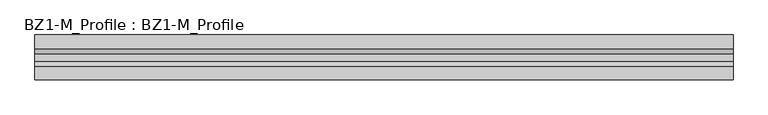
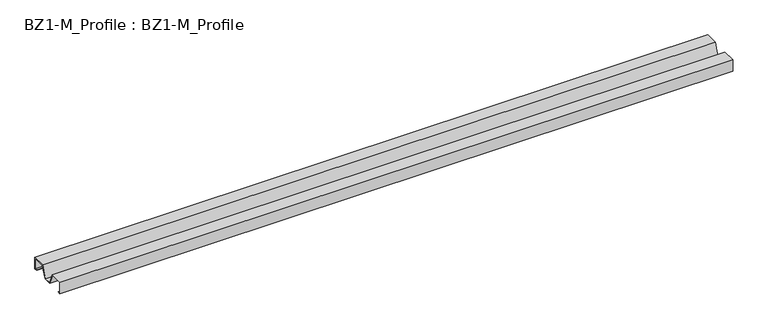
"""IFC4 building model written with IfcOpenShell, lengths in millimetres: beam geometry, BZ1-M_Profile : BZ1-M_Profile."""

import ifcopenshell
import ifcopenshell.guid

model = None  # the IFC model being written
_history = None  # IfcOwnerHistory: only IFC2X3 demands one
_inside = {}  # id of a spatial element -> (the spatial element, [elements in it])
_under = {}  # id of a project, library or spatial element -> (it, [spatial elements below it])
_declared = {}  # id of a project -> (the project, [libraries it declares])
_typed = {}  # id of a type object -> (the type object, [elements of that type])
_made_of = {}  # id of a material, layer set ... -> (it, [elements and type objects made of it])


def new_model(schema):
    """Start an empty IFC model of exactly this schema.

    Asked for "IFC4X3", IfcOpenShell would pick the latest addendum, in which some entities
    have other attributes; the version numbers below select the first issue.
    IFC2X3 requires an IfcOwnerHistory on every rooted entity: one is made here for all.
    """
    global model, _history
    if schema == "IFC4X3":
        model = ifcopenshell.file(schema_version=(4, 3, 0, 0))
    else:
        model = ifcopenshell.file(schema=schema)
    _inside.clear()
    _under.clear()
    _declared.clear()
    _typed.clear()
    _made_of.clear()
    _history = None
    if model.schema == "IFC2X3":
        org = make("IfcOrganization", Name="unknown")
        user = make(
            "IfcPersonAndOrganization",
            ThePerson=make("IfcPerson", FamilyName="unknown"),
            TheOrganization=org,
        )
        app = make(
            "IfcApplication",
            ApplicationDeveloper=org,
            Version="unknown",
            ApplicationFullName="unknown",
            ApplicationIdentifier="unknown",
        )
        _history = make(
            "IfcOwnerHistory",
            OwningUser=user,
            OwningApplication=app,
            ChangeAction="ADDED",
            CreationDate=0,
        )
    return model


def make(cls, **values):
    """One entity of the class cls with the attributes given. An attribute that is None is left unset."""
    return model.create_entity(
        cls, **{name: value for name, value in values.items() if value is not None}
    )


def rooted(cls, **values):
    """An entity with a GlobalId (a new one), such as an element, a storey or a relation."""
    return make(cls, GlobalId=ifcopenshell.guid.new(), OwnerHistory=_history, **values)


def si_unit(unit_type, name, prefix=None):
    """IfcSIUnit, for example si_unit("LENGTHUNIT", "METRE", prefix="MILLI")."""
    return make("IfcSIUnit", UnitType=unit_type, Prefix=prefix, Name=name)


def assignment(units):
    """IfcUnitAssignment: the units of a project."""
    return None if units is None else make("IfcUnitAssignment", Units=units)


def point(xyz):
    """IfcCartesianPoint."""
    return None if xyz is None else make("IfcCartesianPoint", Coordinates=xyz)


def direction(xyz):
    """IfcDirection."""
    return None if xyz is None else make("IfcDirection", DirectionRatios=xyz)


def frame(location, z_axis=None, x_axis=None):
    """IfcAxis2Placement3D, a coordinate frame: its origin and axes. An axis left out is left unset."""
    return make(
        "IfcAxis2Placement3D",
        Location=point(location),
        Axis=direction(z_axis),
        RefDirection=direction(x_axis),
    )


def origin():
    """The frame at (0, 0, 0) with its axes left unset."""
    return frame((0.0, 0.0, 0.0))


def place(relative_to, where):
    """IfcLocalPlacement: puts the frame where relative to a parent placement (None: the world)."""
    return make(
        "IfcLocalPlacement", PlacementRelTo=relative_to, RelativePlacement=where
    )


def context(
    kind, dimensions, precision=None, world=None, true_north=None, identifier=None
):
    """IfcGeometricRepresentationContext, for example the 3D "Model" context."""
    return make(
        "IfcGeometricRepresentationContext",
        ContextIdentifier=identifier,
        ContextType=kind,
        CoordinateSpaceDimension=dimensions,
        Precision=precision,
        WorldCoordinateSystem=world,
        TrueNorth=true_north,
    )


def project(units=None, contexts=None):
    """IfcProject with its units and contexts."""
    return rooted(
        "IfcProject",
        Name="project",
        RepresentationContexts=contexts,
        UnitsInContext=assignment(units),
    )


def spatial(cls, under=None, at=None, **own):
    """A site, building, storey or space (cls), placed at a placement, below another one or the project."""
    s = rooted(cls, ObjectPlacement=at, **own)
    if under is not None:
        _under.setdefault(under.id(), (under, []))[1].append(s)
    return s


def polyline(points):
    """IfcPolyline through the points."""
    return make("IfcPolyline", Points=[point(p) for p in points])


def outline(outer, holes=None, kind="AREA"):
    """IfcArbitraryClosedProfileDef: a profile drawn as a closed curve; with holes, ...WithVoids."""
    if holes is None:
        return make("IfcArbitraryClosedProfileDef", ProfileType=kind, OuterCurve=outer)
    return make(
        "IfcArbitraryProfileDefWithVoids",
        ProfileType=kind,
        OuterCurve=outer,
        InnerCurves=holes,
    )


def extrude(swept, where, along, depth):
    """IfcExtrudedAreaSolid: the profile swept, set in the frame where, extruded along a direction by depth."""
    return make(
        "IfcExtrudedAreaSolid",
        SweptArea=swept,
        Position=where,
        ExtrudedDirection=direction(along),
        Depth=depth,
    )


def shape(context_of_items, identifier, shape_type, items):
    """IfcShapeRepresentation: the items that make up one representation, for example the "Body"."""
    return make(
        "IfcShapeRepresentation",
        ContextOfItems=context_of_items,
        RepresentationIdentifier=identifier,
        RepresentationType=shape_type,
        Items=items,
    )


def source(mapping_origin, context_of_items, identifier, shape_type, items):
    """IfcRepresentationMap: a shape defined once, which mapped items show again and again."""
    return make(
        "IfcRepresentationMap",
        MappingOrigin=mapping_origin,
        MappedRepresentation=shape(context_of_items, identifier, shape_type, items),
    )


def transform(
    local_origin,
    x_axis=None,
    y_axis=None,
    z_axis=None,
    scale=None,
    scale2=None,
    scale3=None,
    uniform=True,
):
    """IfcCartesianTransformationOperator3D, or its non-uniform kind. x_axis, y_axis, z_axis: its Axis1, 2, 3."""
    if uniform:
        return make(
            "IfcCartesianTransformationOperator3D",
            Axis1=direction(x_axis),
            Axis2=direction(y_axis),
            LocalOrigin=point(local_origin),
            Scale=scale,
            Axis3=direction(z_axis),
        )
    return make(
        "IfcCartesianTransformationOperator3DnonUniform",
        Axis1=direction(x_axis),
        Axis2=direction(y_axis),
        LocalOrigin=point(local_origin),
        Scale=scale,
        Axis3=direction(z_axis),
        Scale2=scale2,
        Scale3=scale3,
    )


def mapped(mapping_source, mapping_target):
    """IfcMappedItem: shows the shape of a source again, moved by a transform."""
    return make(
        "IfcMappedItem", MappingSource=mapping_source, MappingTarget=mapping_target
    )


def made_of(thing, what):
    """Note that an element or type object is made of a material, layer set ...; save() writes the relation."""
    if what is not None:
        _made_of.setdefault(what.id(), (what, []))[1].append(thing)
    return thing


def element(
    cls,
    number,
    at=None,
    inside=None,
    cuts=None,
    type_object=None,
    material=None,
    context=None,
    identifier="Body",
    shape_type=None,
    held_by="IfcProductDefinitionShape",
    body=None,
    shapes=None,
    **own,
):
    """One element of the class cls, such as IfcWall. Its Tag is "e" and its number.

    at: its placement. inside: the storey or other place that contains it. cuts: it is an
    opening in that element (IfcRelVoidsElement). A single representation is given by context,
    identifier, shape_type and body (its items); several are given by shapes. held_by: the class
    of the entity that holds the representations. save() writes the other relations.
    """
    e = rooted(cls, Tag="e%d" % number, ObjectPlacement=at, **own)
    if body is not None:
        shapes = [shape(context, identifier, shape_type, body)]
    if shapes is not None:
        e.Representation = make(held_by, Representations=shapes)
    if inside is not None:
        _inside.setdefault(inside.id(), (inside, []))[1].append(e)
    if cuts is not None:
        rooted(
            "IfcRelVoidsElement", RelatingBuildingElement=cuts, RelatedOpeningElement=e
        )
    if type_object is not None:
        _typed.setdefault(type_object.id(), (type_object, []))[1].append(e)
    return made_of(e, material)


def aggregate(whole, parts):
    """IfcRelAggregates: a whole, such as a stair, and the parts it consists of."""
    return rooted("IfcRelAggregates", RelatingObject=whole, RelatedObjects=parts)


def save(model, path):
    """Write the relations noted so far, then the file.

    IfcRelAggregates (storeys below a building ...), IfcRelContainedInSpatialStructure (elements
    in a storey), IfcRelDefinesByType, IfcRelAssociatesMaterial and IfcRelDeclares: one each for
    every whole, place, type object, material and project.
    """
    for whole, parts in _under.values():
        aggregate(whole, parts)
    for where, things in _inside.values():
        rooted(
            "IfcRelContainedInSpatialStructure",
            RelatedElements=things,
            RelatingStructure=where,
        )
    for kind, things in _typed.values():
        rooted("IfcRelDefinesByType", RelatedObjects=things, RelatingType=kind)
    for what, things in _made_of.values():
        rooted("IfcRelAssociatesMaterial", RelatedObjects=things, RelatingMaterial=what)
    for by, libraries in _declared.values():
        rooted("IfcRelDeclares", RelatingContext=by, RelatedDefinitions=libraries)
    model.write(path)


def bz1_m_profile_bz1_m_profile_355f199d(model_context):
    return source(origin(), model_context, "Body", "SweptSolid", [
        extrude(outline(polyline([(45.0, 25.0), (45.0, 0.0), (39.0, 0.0), (39.0, 1.0), (44.0, 1.0), (44.0, 24.0), (18.3051526, 24.0), (8.117757, 0.0), (-8.117757, 0.0), (-18.3051526, 24.0), (-44.0, 24.0), (-44.0, 1.0), (-39.0, 1.0), (-39.0, 0.0), (-45.0, 0.0), (-45.0, 25.0), (-17.643267, 25.0), (-7.4558714, 1.0), (7.4558714, 1.0), (17.643267, 25.0), (45.0, 25.0)])), frame((-687.5, 0.0, 0.0), z_axis=(1.0, 0.0, 0.0), x_axis=(0.0, 1.0, 0.0)), (0.0, 0.0, 1.0), 1394.0894049),
    ])


if __name__ == "__main__":
    model = new_model("IFC4")
    model_context = context("Model", 3, world=origin())
    ifc_project = project(units=[si_unit("LENGTHUNIT", "METRE", prefix="MILLI")], contexts=[model_context])
    site = spatial("IfcSite", under=ifc_project)
    building = spatial("IfcBuilding", under=site)
    placement = place(None, origin())
    bz1_m_profile_bz1_m_profile_shape = bz1_m_profile_bz1_m_profile_355f199d(model_context)
    element("IfcBeam", 1, ObjectType="BZ1-M_Profile : BZ1-M_Profile", at=placement, inside=building, context=model_context, shape_type="MappedRepresentation", body=[
        mapped(bz1_m_profile_bz1_m_profile_shape, transform((0.0, 0.0, 0.0), x_axis=(1.0, 0.0, 0.0), y_axis=(0.0, 1.0, 0.0), z_axis=(0.0, 0.0, 1.0))),
    ])
    save(model, "model.ifc")
